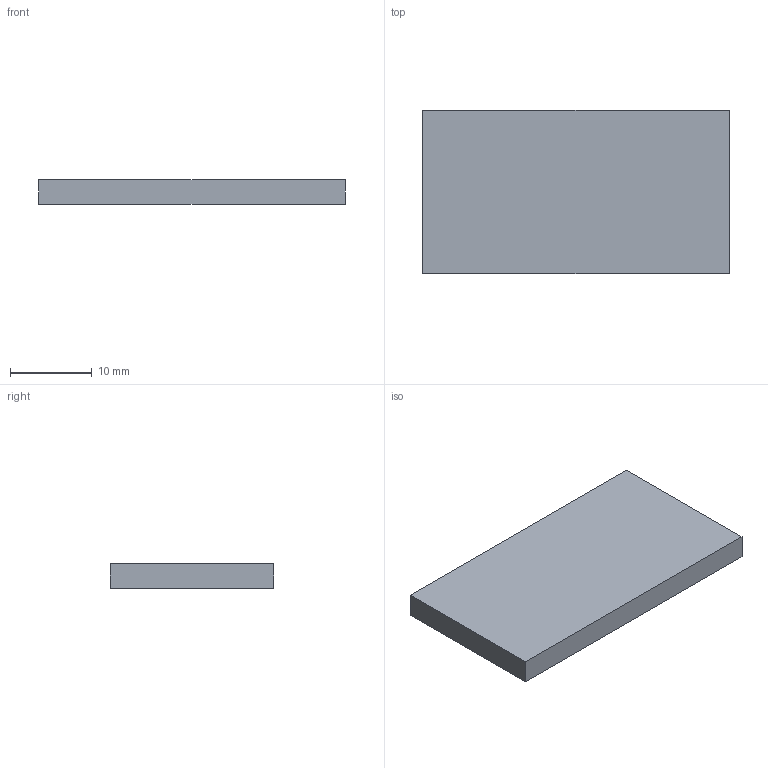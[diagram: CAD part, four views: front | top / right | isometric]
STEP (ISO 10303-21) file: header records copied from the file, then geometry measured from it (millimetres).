
FILE_DESCRIPTION(('FreeCAD Model'),'2;1');
FILE_NAME( '/home/mike/Documents/3D/FreeCAD/CNC/STEP/CabelBoxTopUniversal.step', '2017-05-26T18:20:40',('Author'),(''), 'Open CASCADE STEP processor 6.7','FreeCAD','Unknown');
FILE_SCHEMA(('AUTOMOTIVE_DESIGN_CC2 { 1 2 10303 214 -1 1 5 4 }'));
Length unit declared in the file: millimetre
Products named in the file (1): TopUniversal
Bounding box: 37.5 x 20 x 3 mm (x, y, z)
Volume: 2250 mm3; surface area: 1845 mm2
Topology: 1 solids, 1 shells, 6 faces, 12 edges, 8 vertices
Faces by surface type: plane 6
Entity records: 333 total; most frequent: CARTESIAN_POINT 51, DIRECTION 50, LINE 36, VECTOR 36, ORIENTED_EDGE 24, PCURVE 24, DEFINITIONAL_REPRESENTATION 24, EDGE_CURVE 12
